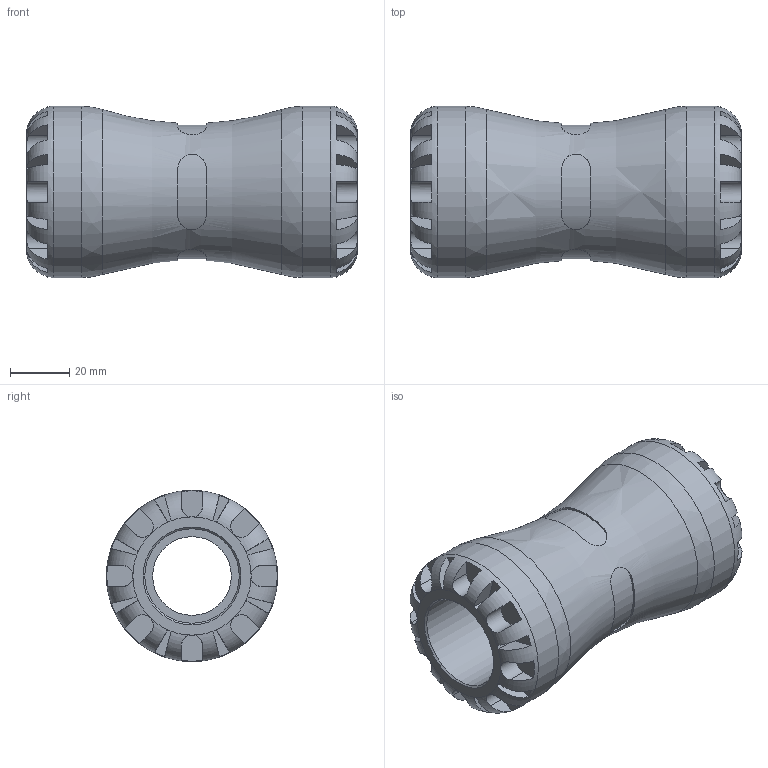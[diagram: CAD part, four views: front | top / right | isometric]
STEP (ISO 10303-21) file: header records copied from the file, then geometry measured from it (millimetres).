
FILE_DESCRIPTION(/* description */ ('PLASSON G-PLASS COUPLING 32X32'),/* implementation_level */ '2;1');
FILE_NAME(/* name */ 'C:\Dropbox\KIMPROJECTS-Inventor 2019\99-16-3568-Processing\S1\150100\stp\150100032.stp',/* time_stamp */ '2023-10-17T19:13:08+03:00',/* author */ ('KIM'),/* organization */ (''),/* preprocessor_version */ 'ST-DEVELOPER v17.2',/* originating_system */ 'Autodesk Inventor 2019',/* authorisation */ '');
FILE_SCHEMA (('AUTOMOTIVE_DESIGN { 1 0 10303 214 3 1 1 }'));
Length unit declared in the file: millimetre
Products named in the file (1): 150100032
Bounding box: 112 x 58 x 58 mm (x, y, z)
Volume: 149308.7 mm3; surface area: 35983.9 mm2
Topology: 1 solids, 1 shells, 164 faces, 431 edges, 274 vertices
Faces by surface type: plane 108, cylinder 49, torus 3, cone 2, bspline 2
Full cylindrical faces by diameter (mm): 26.667 x1, 32 x2, 58 x2
Entity records: 6552 total; most frequent: CARTESIAN_POINT 2514, ORIENTED_EDGE 862, DIRECTION 813, EDGE_CURVE 431, AXIS2_PLACEMENT_3D 331, VERTEX_POINT 274, EDGE_LOOP 171, CIRCLE 168
